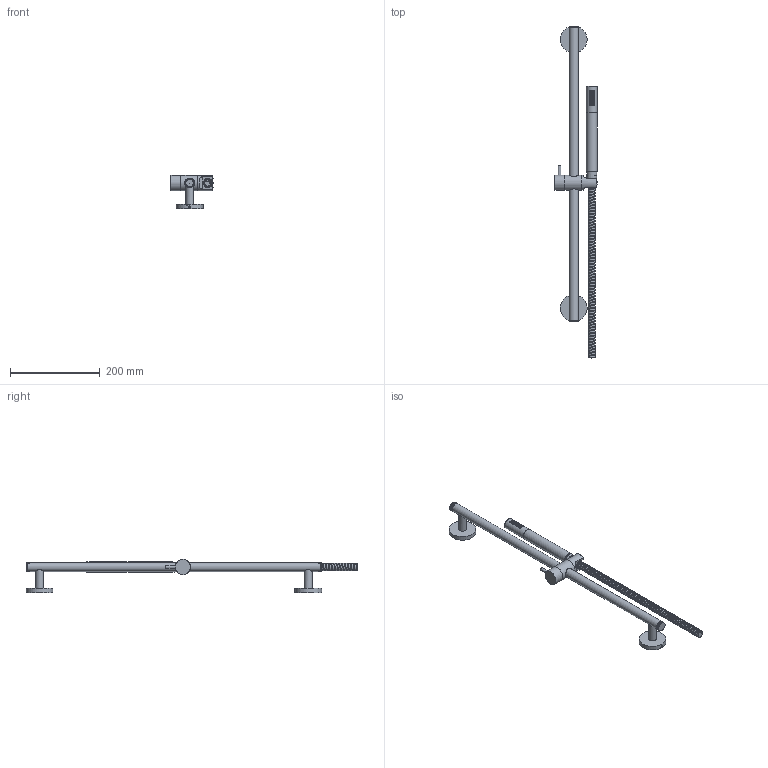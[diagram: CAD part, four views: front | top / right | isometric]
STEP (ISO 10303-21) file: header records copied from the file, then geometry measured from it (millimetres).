
FILE_DESCRIPTION(/* description */ (''),/* implementation_level */ '2;1');
FILE_NAME(/* name */ 'c:\worker\convert-fusion-r08\tmp\job-1\18\output\files\95e9022f-36d8-4d38-80b4-71ff6b0bb5ab\fda70322-afb0-42da-832d-811b88a8139d.stp',/* time_stamp */ '2019-11-26T12:02:57+00:00',/* author */ (''),/* organization */ (''),/* preprocessor_version */ 'ST-DEVELOPER v18',/* originating_system */ 'Autodesk Translation Framework v8.12.0.6',/* authorisation */ '');
FILE_SCHEMA (('AUTOMOTIVE_DESIGN { 1 0 10303 214 3 1 1 }'));
Length unit declared in the file: millimetre
Products named in the file (3): Microphone-S GL; !Microphone-R v2; waz v1
Assembly tree (2 placements, depth 2):
  Microphone-S GL
    !Microphone-R v2
    waz v1
Bounding box: 94.3 x 741.19 x 74 mm (x, y, z)
Volume: 258843 mm3; surface area: 226207.9 mm2
Topology: 24 solids, 24 shells, 844 faces, 2235 edges, 1459 vertices
Faces by surface type: cylinder 496, bspline 188, plane 113, torus 24, cone 17, sphere 6
Full cylindrical faces by diameter (mm): 3.856 x14, 4.029 x14, 4.427 x10, 4.586 x12, 6 x1, 6.446 x94, 7.866 x88, 8 x54, 8.2 x4, 12 x2, 13 x1, 14 x1, 14.6 x2, 16 x54, 16.1 x2, 17 x1, 17.5 x2, 17.98 x1, 18 x7, 20 x4, 20.48 x1, 20.5 x1, 20.6 x1, 21.6 x1, 22 x1, 23.98 x2, 24 x2, 34 x3, 43 x2, 49 x2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
Entity records: 63346 total; most frequent: CARTESIAN_POINT 44549, ORIENTED_EDGE 4468, DIRECTION 2733, EDGE_CURVE 2234, VERTEX_POINT 1460, B_SPLINE_CURVE_WITH_KNOTS 1150, EDGE_LOOP 1046, AXIS2_PLACEMENT_3D 988
